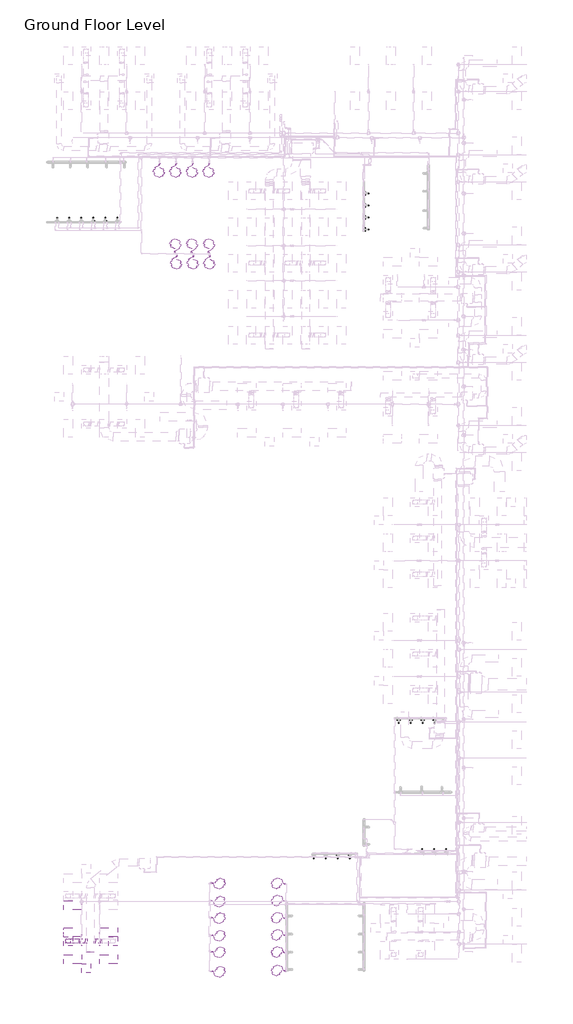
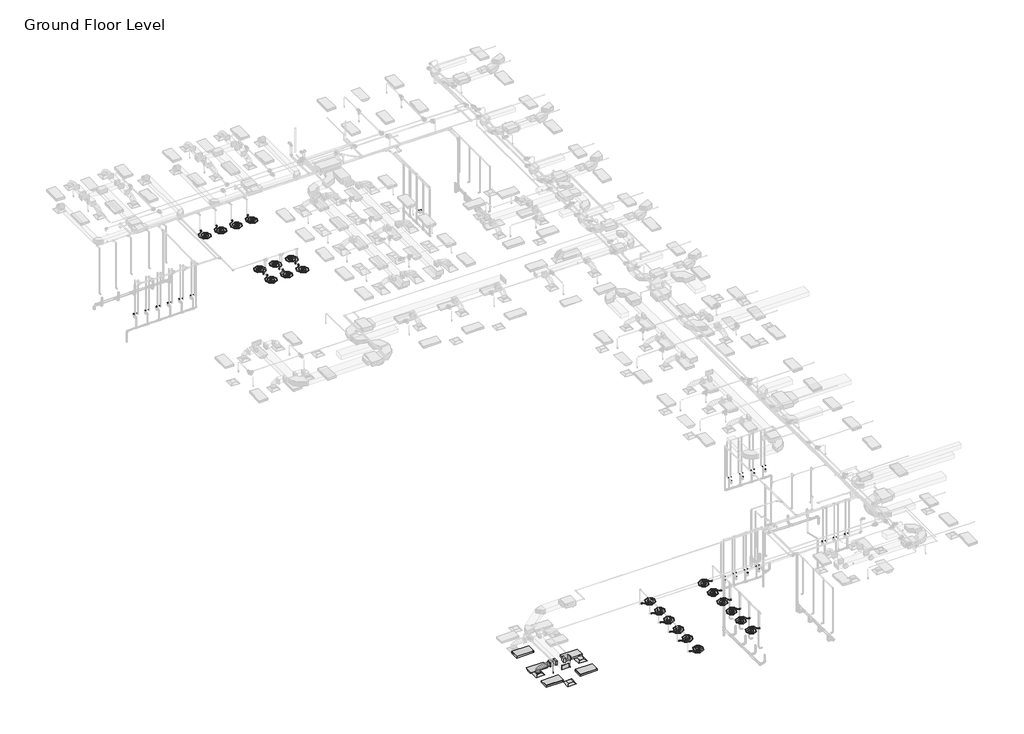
# One storey, part 1 of 72: 43 flow terminals, 6 duct fittings, 5 light fixtures, 3 air terminals, 3 duct segments, 2 fire suppression terminals, 2 pipe segments.
"""IFC4 building model written with IfcOpenShell, lengths in millimetres."""

from ifc_helpers import new_model, si_unit, point, frame, frame_2d, origin, place, context, project, spatial, polyline, circle_curve, ellipse_curve, trimmed, segment, composite_curve, outline, extrude, transform, mapped, element, save
from ifc_brep_helpers import plane_surface, cylinder_surface, advanced_brep
from components import m_return_diffuser_600_x_600_face_300_x_300_connection_ff221211, m_rectangular_endcap_standard_72d4d00d, m_rectangular_takeoff_standard_cb0ccb98, m_rectangular_takeoff_standard_2be5eba1, m_rectangular_to_round_transition_angle_45_degree_641efff0, m_sprinkler_dry_pendent_hosted_15_mm_dry_pendent_9bda8e11, lavatory_unit_m_type_1_c53317d3, shower_m_shower_m_c8aa42c7, m_emergency_recessed_lighting_fixture_600x1200_277_5b10b25d, m_troffer_light_parabolic_rectangular1_0600x1200mm_4_lamp_86473d4a

model = new_model("IFC4")

# Units and contexts
model_context = context("Model", 3, world=origin())
ifc_project = project(units=[si_unit("LENGTHUNIT", "METRE", prefix="MILLI")], contexts=[model_context])

# Site, building, storey
site = spatial("IfcSite", under=ifc_project)
building = spatial("IfcBuilding", under=site)
storey = spatial("IfcBuildingStorey", under=building, Name="Ground Floor Level", Elevation=900.0)

# Air terminals
placement = place(None, origin())
m_return_diffuser_600_x_600_face_300_x_300_connection_shape = m_return_diffuser_600_x_600_face_300_x_300_connection_ff221211(model_context)
element("IfcAirTerminal", 1, ObjectType="M_Return Diffuser : 600 x 600 Face 300 x 300 Connection", at=placement, inside=storey, context=model_context, shape_type="MappedRepresentation", body=[
    mapped(m_return_diffuser_600_x_600_face_300_x_300_connection_shape, transform((-19137.2327605, -40464.7846466, 3650.0), x_axis=(1.0, 0.0, 0.0), y_axis=(0.0, 1.0, 0.0), z_axis=(0.0, 0.0, 1.0))),
])
element("IfcAirTerminal", 2, ObjectType="M_Supply Diffuser : 600 x 600 Face 300 x 300 Connection", at=placement, inside=storey, context=model_context, shape_type="MappedRepresentation", body=[
    mapped(m_return_diffuser_600_x_600_face_300_x_300_connection_shape, transform((-20337.2327605, -38664.7846466, 3650.0), x_axis=(1.0, 0.0, 0.0), y_axis=(0.0, 1.0, 0.0), z_axis=(0.0, 0.0, 1.0))),
])
element("IfcAirTerminal", 3, ObjectType="M_Supply Diffuser : 600 x 600 Face 300 x 300 Connection", at=placement, inside=storey, context=model_context, shape_type="MappedRepresentation", body=[
    mapped(m_return_diffuser_600_x_600_face_300_x_300_connection_shape, transform((-17337.2327605, -38674.7846466, 3650.0), x_axis=(1.0, 0.0, 0.0), y_axis=(0.0, 1.0, 0.0), z_axis=(0.0, 0.0, 1.0))),
])

# Duct fittings
m_rectangular_endcap_standard_shape = m_rectangular_endcap_standard_72d4d00d(model_context)
element("IfcDuctFitting", 4, ObjectType="M_Rectangular Endcap : Standard", at=placement, inside=storey, context=model_context, shape_type="MappedRepresentation", body=[
    mapped(m_rectangular_endcap_standard_shape, transform((-18834.0450532, -39368.1580197, 4100.0), x_axis=(0.0, -1.0, 0.0), y_axis=(1.0, 0.0, 0.0), z_axis=(0.0, 0.0, 1.0))),
])
m_rectangular_takeoff_standard_shape = m_rectangular_takeoff_standard_cb0ccb98(model_context)
element("IfcDuctFitting", 5, ObjectType="M_Rectangular Takeoff : Standard", at=placement, inside=storey, context=model_context, shape_type="MappedRepresentation", body=[
    mapped(m_rectangular_takeoff_standard_shape, transform((-18584.0450532, -38664.7846466, 4100.0), x_axis=(1.0, 0.0, 0.0), y_axis=(0.0, -1.0, 0.0), z_axis=(0.0, 0.0, -1.0))),
])
m_rectangular_takeoff_standard_2_shape = m_rectangular_takeoff_standard_2be5eba1(model_context)
element("IfcDuctFitting", 6, ObjectType="M_Rectangular Takeoff : Standard", at=placement, inside=storey, context=model_context, shape_type="MappedRepresentation", body=[
    mapped(m_rectangular_takeoff_standard_2_shape, transform((-19084.0450532, -38664.7846466, 4100.0), x_axis=(-1.0, 0.0, 0.0), y_axis=(0.0, 1.0, 0.0), z_axis=(0.0, 0.0, -1.0))),
])
m_rectangular_to_round_transition_angle_45_degree_shape = m_rectangular_to_round_transition_angle_45_degree_641efff0(model_context)
element("IfcDuctFitting", 7, ObjectType="M_Rectangular to Round Transition - Angle : 45 Degree", at=placement, inside=storey, context=model_context, shape_type="MappedRepresentation", body=[
    mapped(m_rectangular_to_round_transition_angle_45_degree_shape, transform((-18164.5686918, -38664.7846466, 4100.0), x_axis=(1.0, 0.0, 0.0), y_axis=(0.0, 1.0, 0.0), z_axis=(0.0, 0.0, 1.0))),
])
element("IfcDuctFitting", 8, ObjectType="M_Rectangular to Round Transition - Angle : 45 Degree", at=placement, inside=storey, context=model_context, shape_type="MappedRepresentation", body=[
    mapped(m_rectangular_to_round_transition_angle_45_degree_shape, transform((-20337.2327605, -38664.7846466, 3751.6), x_axis=(0.0, 0.0, 1.0), y_axis=(-1.0, 0.0, 0.0), z_axis=(0.0, -1.0, 0.0))),
])
element("IfcDuctFitting", 9, ObjectType="M_Rectangular to Round Transition - Angle : 45 Degree", at=placement, inside=storey, context=model_context, shape_type="MappedRepresentation", body=[
    mapped(m_rectangular_to_round_transition_angle_45_degree_shape, transform((-19509.8968292, -38664.7846466, 4100.0), x_axis=(-1.0, 0.0, 0.0), y_axis=(0.0, -1.0, 0.0), z_axis=(0.0, 0.0, 1.0))),
])

# Duct segments
element("IfcDuctSegment", 10, ObjectType="Flex - Round", at=placement, inside=storey, context=model_context, shape_type="AdvancedBrep", body=[
    advanced_brep(
    [(-20187.2327605, -38664.7846466, 3826.6), (-20337.2327605, -38814.7846466, 3826.6), (-20487.2327605, -38664.7846466, 3826.6), (-20337.2327605, -38514.7846466, 3826.6), (-20187.2327605, -38664.7846466, 3832.2944892), (-20337.2327605, -38814.7846466, 3857.9377114), (-20487.2327605, -38664.7846466, 3883.5809337), (-20337.2327605, -38514.7846466, 3857.9377114), (-20186.478849, -38664.7846466, 3834.435049), (-20320.216828, -38814.7846466, 3906.2505728), (-20453.9548069, -38664.7846466, 3978.0660967), (-20320.216828, -38514.7846466, 3906.2505728), (-20168.8270484, -38664.7846466, 3857.8020236), (-20273.0329476, -38814.7846466, 3968.7113131), (-20377.2388469, -38664.7846466, 4079.6206026), (-20273.0329476, -38514.7846466, 3968.7113131), (-20132.5429398, -38664.7846466, 3881.8163788), (-20201.4769955, -38814.7846466, 4016.0700639), (-20270.4110511, -38664.7846466, 4150.3237489), (-20201.4769955, -38514.7846466, 4016.0700639), (-20067.7840843, -38664.7846466, 3906.4925606), (-20111.3448475, -38814.7846466, 4050.4146682), (-20154.9056106, -38664.7846466, 4194.3367758), (-20111.3448475, -38514.7846466, 4050.4146682), (-19981.8714556, -38664.7846466, 3926.0424542), (-20008.4323796, -38814.7846466, 4073.8329691), (-20034.9933036, -38664.7846466, 4221.6234841), (-20008.4323796, -38514.7846466, 4073.8329691), (-19883.3845655, -38664.7846466, 3939.1085462), (-19898.5354679, -38814.7846466, 4088.4128097), (-19913.6863702, -38664.7846466, 4237.7170733), (-19898.5354679, -38514.7846466, 4088.4128097), (-19779.9446601, -38664.7846466, 3946.398915), (-19787.4499883, -38814.7846466, 4096.242033), (-19794.9553164, -38664.7846466, 4246.085151), (-19787.4499883, -38514.7846466, 4096.242033), (-19678.2803236, -38664.7846466, 3949.4222102), (-19680.9718167, -38814.7846466, 4099.4084821), (-19683.6633098, -38664.7846466, 4249.394754), (-19680.9718167, -38514.7846466, 4099.4084821), (-19583.9733214, -38664.7846466, 3950.0028429), (-19584.8968292, -38814.7846466, 4100.0), (-19585.8203371, -38664.7846466, 4249.9971571), (-19584.8968292, -38514.7846466, 4100.0)],
    [
        (0, 1, circle_curve(frame((-20337.2327605, -38664.7846466, 3826.6), z_axis=(0.0, 0.0, -1.0), x_axis=(1.0, 0.0, 0.0)), 150.0)),
        (1, 2, circle_curve(frame((-20337.2327605, -38664.7846466, 3826.6), z_axis=(0.0, 0.0, -1.0), x_axis=(1.0, 0.0, 0.0)), 150.0)),
        (2, 3, circle_curve(frame((-20337.2327605, -38664.7846466, 3826.6), z_axis=(0.0, 0.0, -1.0), x_axis=(1.0, 0.0, 0.0)), 150.0)),
        (3, 0, circle_curve(frame((-20337.2327605, -38664.7846466, 3826.6), z_axis=(0.0, 0.0, -1.0), x_axis=(1.0, 0.0, 0.0)), 150.0)),
        (0, 4),
        (4, 5, ellipse_curve(frame((-20337.2327605, -38664.7846466, 3857.9377114), z_axis=(-0.16851014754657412, 0.0, -0.9856999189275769), x_axis=(0.9856999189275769, 0.0, -0.16851014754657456)), 152.176131, 150.0)),
        (5, 1),
        (5, 6, ellipse_curve(frame((-20337.2327605, -38664.7846466, 3857.9377114), z_axis=(-0.16851014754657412, 0.0, -0.9856999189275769), x_axis=(0.9856999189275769, 0.0, -0.16851014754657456)), 152.176131, 150.0)),
        (6, 2),
        (6, 7, ellipse_curve(frame((-20337.2327605, -38664.7846466, 3857.9377114), z_axis=(-0.16851014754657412, 0.0, -0.9856999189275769), x_axis=(0.9856999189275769, 0.0, -0.16851014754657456)), 152.176131, 150.0)),
        (7, 3),
        (7, 4, ellipse_curve(frame((-20337.2327605, -38664.7846466, 3857.9377114), z_axis=(-0.16851014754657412, 0.0, -0.9856999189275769), x_axis=(0.9856999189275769, 0.0, -0.16851014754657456)), 152.176131, 150.0)),
        (4, 8),
        (8, 9, ellipse_curve(frame((-20320.216828, -38664.7846466, 3906.2505728), z_axis=(-0.47309225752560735, 0.0, -0.881012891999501), x_axis=(0.8810128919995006, 0.0, -0.4730922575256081)), 151.8002519, 150.0)),
        (9, 5),
        (9, 10, ellipse_curve(frame((-20320.216828, -38664.7846466, 3906.2505728), z_axis=(-0.47309225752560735, 0.0, -0.881012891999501), x_axis=(0.8810128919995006, 0.0, -0.4730922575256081)), 151.8002519, 150.0)),
        (10, 6),
        (10, 11, ellipse_curve(frame((-20320.216828, -38664.7846466, 3906.2505728), z_axis=(-0.47309225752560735, 0.0, -0.881012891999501), x_axis=(0.8810128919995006, 0.0, -0.4730922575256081)), 151.8002519, 150.0)),
        (11, 7),
        (11, 8, ellipse_curve(frame((-20320.216828, -38664.7846466, 3906.2505728), z_axis=(-0.47309225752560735, 0.0, -0.881012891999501), x_axis=(0.8810128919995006, 0.0, -0.4730922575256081)), 151.8002519, 150.0)),
        (8, 12),
        (12, 13, ellipse_curve(frame((-20273.0329476, -38664.7846466, 3968.7113131), z_axis=(-0.728787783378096, 0.0, -0.6847396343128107), x_axis=(0.6847396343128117, 0.0, -0.7287877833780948)), 152.1832446, 150.0)),
        (13, 9),
        (13, 14, ellipse_curve(frame((-20273.0329476, -38664.7846466, 3968.7113131), z_axis=(-0.728787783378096, 0.0, -0.6847396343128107), x_axis=(0.6847396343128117, 0.0, -0.7287877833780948)), 152.1832446, 150.0)),
        (14, 10),
        (14, 15, ellipse_curve(frame((-20273.0329476, -38664.7846466, 3968.7113131), z_axis=(-0.728787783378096, 0.0, -0.6847396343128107), x_axis=(0.6847396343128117, 0.0, -0.7287877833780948)), 152.1832446, 150.0)),
        (15, 11),
        (15, 12, ellipse_curve(frame((-20273.0329476, -38664.7846466, 3968.7113131), z_axis=(-0.728787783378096, 0.0, -0.6847396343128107), x_axis=(0.6847396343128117, 0.0, -0.7287877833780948)), 152.1832446, 150.0)),
        (12, 16),
        (16, 17, ellipse_curve(frame((-20201.4769955, -38664.7846466, 4016.0700639), z_axis=(-0.8895859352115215, 0.0, -0.4567678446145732), x_axis=(0.45676784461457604, 0.0, -0.88958593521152)), 150.91705, 150.0)),
        (17, 13),
        (17, 18, ellipse_curve(frame((-20201.4769955, -38664.7846466, 4016.0700639), z_axis=(-0.8895859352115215, 0.0, -0.4567678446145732), x_axis=(0.45676784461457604, 0.0, -0.88958593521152)), 150.91705, 150.0)),
        (18, 14),
        (18, 19, ellipse_curve(frame((-20201.4769955, -38664.7846466, 4016.0700639), z_axis=(-0.8895859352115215, 0.0, -0.4567678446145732), x_axis=(0.45676784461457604, 0.0, -0.88958593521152)), 150.91705, 150.0)),
        (19, 15),
        (19, 16, ellipse_curve(frame((-20201.4769955, -38664.7846466, 4016.0700639), z_axis=(-0.8895859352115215, 0.0, -0.4567678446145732), x_axis=(0.45676784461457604, 0.0, -0.88958593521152)), 150.91705, 150.0)),
        (16, 20),
        (20, 21, ellipse_curve(frame((-20111.3448475, -38664.7846466, 4050.4146682), z_axis=(-0.9571203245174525, 0.0, -0.2896906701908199), x_axis=(0.28969067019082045, 0.0, -0.9571203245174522)), 150.369921, 150.0)),
        (21, 17),
        (21, 22, ellipse_curve(frame((-20111.3448475, -38664.7846466, 4050.4146682), z_axis=(-0.9571203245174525, 0.0, -0.2896906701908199), x_axis=(0.28969067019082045, 0.0, -0.9571203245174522)), 150.369921, 150.0)),
        (22, 18),
        (22, 23, ellipse_curve(frame((-20111.3448475, -38664.7846466, 4050.4146682), z_axis=(-0.9571203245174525, 0.0, -0.2896906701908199), x_axis=(0.28969067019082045, 0.0, -0.9571203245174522)), 150.369921, 150.0)),
        (23, 19),
        (23, 20, ellipse_curve(frame((-20111.3448475, -38664.7846466, 4050.4146682), z_axis=(-0.9571203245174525, 0.0, -0.2896906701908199), x_axis=(0.28969067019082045, 0.0, -0.9571203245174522)), 150.369921, 150.0)),
        (20, 24),
        (24, 25, ellipse_curve(frame((-20008.4323796, -38664.7846466, 4073.8329691), z_axis=(-0.9842313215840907, 0.0, -0.17688613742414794), x_axis=(0.17688613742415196, 0.0, -0.9842313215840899)), 150.1583131, 150.0)),
        (25, 21),
        (25, 26, ellipse_curve(frame((-20008.4323796, -38664.7846466, 4073.8329691), z_axis=(-0.9842313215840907, 0.0, -0.17688613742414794), x_axis=(0.17688613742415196, 0.0, -0.9842313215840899)), 150.1583131, 150.0)),
        (26, 22),
        (26, 27, ellipse_curve(frame((-20008.4323796, -38664.7846466, 4073.8329691), z_axis=(-0.9842313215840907, 0.0, -0.17688613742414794), x_axis=(0.17688613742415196, 0.0, -0.9842313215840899)), 150.1583131, 150.0)),
        (27, 23),
        (27, 24, ellipse_curve(frame((-20008.4323796, -38664.7846466, 4073.8329691), z_axis=(-0.9842313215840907, 0.0, -0.17688613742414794), x_axis=(0.17688613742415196, 0.0, -0.9842313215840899)), 150.1583131, 150.0)),
        (24, 28),
        (28, 29, ellipse_curve(frame((-19898.5354679, -38664.7846466, 4088.4128097), z_axis=(-0.9948906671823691, 0.0, -0.1009582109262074), x_axis=(0.10095821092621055, 0.0, -0.9948906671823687)), 150.0710264, 150.0)),
        (29, 25),
        (29, 30, ellipse_curve(frame((-19898.5354679, -38664.7846466, 4088.4128097), z_axis=(-0.9948906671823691, 0.0, -0.1009582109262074), x_axis=(0.10095821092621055, 0.0, -0.9948906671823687)), 150.0710264, 150.0)),
        (30, 26),
        (30, 31, ellipse_curve(frame((-19898.5354679, -38664.7846466, 4088.4128097), z_axis=(-0.9948906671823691, 0.0, -0.1009582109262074), x_axis=(0.10095821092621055, 0.0, -0.9948906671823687)), 150.0710264, 150.0)),
        (31, 27),
        (31, 28, ellipse_curve(frame((-19898.5354679, -38664.7846466, 4088.4128097), z_axis=(-0.9948906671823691, 0.0, -0.1009582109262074), x_axis=(0.10095821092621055, 0.0, -0.9948906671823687)), 150.0710264, 150.0)),
        (28, 32),
        (32, 33, ellipse_curve(frame((-19787.4499883, -38664.7846466, 4096.242033), z_axis=(-0.9987479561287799, 0.0, -0.05002519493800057), x_axis=(0.05002519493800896, 0.0, -0.9987479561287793)), 150.0309634, 150.0)),
        (33, 29),
        (33, 34, ellipse_curve(frame((-19787.4499883, -38664.7846466, 4096.242033), z_axis=(-0.9987479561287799, 0.0, -0.05002519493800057), x_axis=(0.05002519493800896, 0.0, -0.9987479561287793)), 150.0309634, 150.0)),
        (34, 30),
        (34, 35, ellipse_curve(frame((-19787.4499883, -38664.7846466, 4096.242033), z_axis=(-0.9987479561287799, 0.0, -0.05002519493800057), x_axis=(0.05002519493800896, 0.0, -0.9987479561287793)), 150.0309634, 150.0)),
        (35, 31),
        (35, 32, ellipse_curve(frame((-19787.4499883, -38664.7846466, 4096.242033), z_axis=(-0.9987479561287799, 0.0, -0.05002519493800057), x_axis=(0.05002519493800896, 0.0, -0.9987479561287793)), 150.0309634, 150.0)),
        (32, 36),
        (36, 37, ellipse_curve(frame((-19680.9718167, -38664.7846466, 4099.4084821), z_axis=(-0.9998390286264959, 0.0, -0.017942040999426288), x_axis=(0.01794204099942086, 0.0, -0.999839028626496)), 150.0104193, 150.0)),
        (37, 33),
        (37, 38, ellipse_curve(frame((-19680.9718167, -38664.7846466, 4099.4084821), z_axis=(-0.9998390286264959, 0.0, -0.017942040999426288), x_axis=(0.01794204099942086, 0.0, -0.999839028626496)), 150.0104193, 150.0)),
        (38, 34),
        (38, 39, ellipse_curve(frame((-19680.9718167, -38664.7846466, 4099.4084821), z_axis=(-0.9998390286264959, 0.0, -0.017942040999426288), x_axis=(0.01794204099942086, 0.0, -0.999839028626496)), 150.0104193, 150.0)),
        (39, 35),
        (39, 36, ellipse_curve(frame((-19680.9718167, -38664.7846466, 4099.4084821), z_axis=(-0.9998390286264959, 0.0, -0.017942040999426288), x_axis=(0.01794204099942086, 0.0, -0.999839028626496)), 150.0104193, 150.0)),
        (36, 40),
        (40, 41, circle_curve(frame((-19584.8968292, -38664.7846466, 4100.0), z_axis=(-0.9999810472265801, 0.0, -0.006156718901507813), x_axis=(0.006156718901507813, 0.0, -0.9999810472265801)), 150.0)),
        (41, 37),
        (41, 42, circle_curve(frame((-19584.8968292, -38664.7846466, 4100.0), z_axis=(-0.9999810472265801, 0.0, -0.006156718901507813), x_axis=(0.006156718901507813, 0.0, -0.9999810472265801)), 150.0)),
        (42, 38),
        (42, 43, circle_curve(frame((-19584.8968292, -38664.7846466, 4100.0), z_axis=(-0.9999810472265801, 0.0, -0.006156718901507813), x_axis=(0.006156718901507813, 0.0, -0.9999810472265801)), 150.0)),
        (43, 39),
        (43, 40, circle_curve(frame((-19584.8968292, -38664.7846466, 4100.0), z_axis=(-0.9999810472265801, 0.0, -0.006156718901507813), x_axis=(0.006156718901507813, 0.0, -0.9999810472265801)), 150.0)),
    ],
    [
        plane_surface(frame((-20337.2327605, -38814.7846466, 3826.6), z_axis=(0.0, 0.0, -1.0), x_axis=(1.0, 0.0, 0.0))),
        cylinder_surface(frame((-20337.2327605, -38664.7846466, 3826.6), z_axis=(0.0, 0.0, -1.0), x_axis=(1.0, 0.0, 0.0)), 150.0),
        cylinder_surface(frame((-20337.2327605, -38664.7846466, 3857.9377114), z_axis=(-0.3322008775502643, 0.0, -0.9432086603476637), x_axis=(0.9432086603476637, 0.0, -0.3322008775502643)), 150.0),
        cylinder_surface(frame((-20320.216828, -38664.7846466, 3906.2505728), z_axis=(-0.602762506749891, 0.0, -0.7979206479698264), x_axis=(0.7979206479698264, 0.0, -0.602762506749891)), 150.0),
        cylinder_surface(frame((-20273.0329476, -38664.7846466, 3968.7113131), z_axis=(-0.8339024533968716, 0.0, -0.5519118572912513), x_axis=(0.5519118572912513, 0.0, -0.8339024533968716)), 150.0),
        cylinder_surface(frame((-20201.4769955, -38664.7846466, 4016.0700639), z_axis=(-0.9344582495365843, 0.0, -0.35607271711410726), x_axis=(0.35607271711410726, 0.0, -0.9344582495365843)), 150.0),
        cylinder_surface(frame((-20111.3448475, -38664.7846466, 4050.4146682), z_axis=(-0.9750732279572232, 0.0, -0.2218833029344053), x_axis=(0.2218833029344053, 0.0, -0.9750732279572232)), 150.0),
        cylinder_surface(frame((-20008.4323796, -38664.7846466, 4073.8329691), z_axis=(-0.9913140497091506, 0.0, -0.13151598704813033), x_axis=(0.13151598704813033, 0.0, -0.9913140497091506)), 150.0),
        cylinder_surface(frame((-19898.5354679, -38664.7846466, 4088.4128097), z_axis=(-0.9975255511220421, 0.0, -0.07030487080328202), x_axis=(0.07030487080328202, 0.0, -0.9975255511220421)), 150.0),
        cylinder_surface(frame((-19787.4499883, -38664.7846466, 4096.242033), z_axis=(-0.9995581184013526, 0.0, -0.02972487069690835), x_axis=(0.02972487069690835, 0.0, -0.9995581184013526)), 150.0),
        cylinder_surface(frame((-19680.9718167, -38664.7846466, 4099.4084821), z_axis=(-0.9999810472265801, 0.0, -0.006156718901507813), x_axis=(0.006156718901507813, 0.0, -0.9999810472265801)), 150.0),
        plane_surface(frame((-19584.8968292, -38814.7846466, 4100.0), z_axis=(0.9999810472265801, 0.0, 0.00615671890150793), x_axis=(0.00615671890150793, 0.0, -0.9999810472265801))),
    ],
    [
        (0, [[1, 2, 3, 4]]),
        (1, [[-1, 5, 6, 7]]),
        (1, [[-2, -7, 8, 9]]),
        (1, [[-3, -9, 10, 11]]),
        (1, [[-4, -11, 12, -5]]),
        (2, [[-6, 13, 14, 15]]),
        (2, [[-8, -15, 16, 17]]),
        (2, [[-10, -17, 18, 19]]),
        (2, [[-12, -19, 20, -13]]),
        (3, [[-14, 21, 22, 23]]),
        (3, [[-16, -23, 24, 25]]),
        (3, [[-18, -25, 26, 27]]),
        (3, [[-20, -27, 28, -21]]),
        (4, [[-22, 29, 30, 31]]),
        (4, [[-24, -31, 32, 33]]),
        (4, [[-26, -33, 34, 35]]),
        (4, [[-28, -35, 36, -29]]),
        (5, [[-30, 37, 38, 39]]),
        (5, [[-32, -39, 40, 41]]),
        (5, [[-34, -41, 42, 43]]),
        (5, [[-36, -43, 44, -37]]),
        (6, [[-38, 45, 46, 47]]),
        (6, [[-40, -47, 48, 49]]),
        (6, [[-42, -49, 50, 51]]),
        (6, [[-44, -51, 52, -45]]),
        (7, [[-46, 53, 54, 55]]),
        (7, [[-48, -55, 56, 57]]),
        (7, [[-50, -57, 58, 59]]),
        (7, [[-52, -59, 60, -53]]),
        (8, [[-54, 61, 62, 63]]),
        (8, [[-56, -63, 64, 65]]),
        (8, [[-58, -65, 66, 67]]),
        (8, [[-60, -67, 68, -61]]),
        (9, [[-62, 69, 70, 71]]),
        (9, [[-64, -71, 72, 73]]),
        (9, [[-66, -73, 74, 75]]),
        (9, [[-68, -75, 76, -69]]),
        (10, [[-70, 77, 78, 79]]),
        (10, [[-72, -79, 80, 81]]),
        (10, [[-74, -81, 82, 83]]),
        (10, [[-76, -83, 84, -77]]),
        (11, [[-84, -82, -80, -78]]),
    ],
),
])
element("IfcDuctSegment", 11, ObjectType="Radius Elbows / Taps", at=placement, inside=storey, context=model_context, shape_type="SweptSolid", body=[
    extrude(outline(polyline([(-19185.6450532, -38514.7846466), (-19185.6450532, -38814.7846466), (-19509.8968292, -38814.7846466), (-19509.8968292, -38514.7846466), (-19185.6450532, -38514.7846466)])), frame((0.0, 0.0, 3950.0), z_axis=(0.0, 0.0, 1.0), x_axis=(1.0, 0.0, 0.0)), (0.0, 0.0, 1.0), 300.0),
])
element("IfcDuctSegment", 12, ObjectType="Radius Elbows / Taps", at=placement, inside=storey, context=model_context, shape_type="SweptSolid", body=[
    extrude(outline(polyline([(-18482.4450532, -38814.7846466), (-18482.4450532, -38514.7846466), (-18164.5686918, -38514.7846466), (-18164.5686918, -38814.7846466), (-18482.4450532, -38814.7846466)])), frame((0.0, 0.0, 3950.0), z_axis=(0.0, 0.0, 1.0), x_axis=(1.0, 0.0, 0.0)), (0.0, 0.0, 1.0), 300.0),
])

# Fire suppression terminals
m_sprinkler_dry_pendent_hosted_15_mm_dry_pendent_shape = m_sprinkler_dry_pendent_hosted_15_mm_dry_pendent_9bda8e11(model_context)
element("IfcFireSuppressionTerminal", 13, ObjectType="M_Sprinkler - Dry - Pendent - Hosted : 15 mm Dry Pendent", at=placement, inside=storey, context=model_context, shape_type="MappedRepresentation", body=[
    mapped(m_sprinkler_dry_pendent_hosted_15_mm_dry_pendent_shape, transform((-18237.2327605, -38964.7846466, 3650.0), x_axis=(1.0, 0.0, 0.0), y_axis=(0.0, -1.0, 0.0), z_axis=(0.0, 0.0, -1.0))),
])
element("IfcFireSuppressionTerminal", 14, ObjectType="M_Sprinkler - Dry - Pendent - Hosted : 15 mm Dry Pendent", at=placement, inside=storey, context=model_context, shape_type="MappedRepresentation", body=[
    mapped(m_sprinkler_dry_pendent_hosted_15_mm_dry_pendent_shape, transform((-19437.2327605, -38964.7846466, 3650.0), x_axis=(1.0, 0.0, 0.0), y_axis=(0.0, -1.0, 0.0), z_axis=(0.0, 0.0, -1.0))),
])

# Flow terminals
lavatory_unit_m_type_1_shape = lavatory_unit_m_type_1_c53317d3(model_context)
element("IfcFlowTerminal", 15, ObjectType="Lavatory Unit-M : Type 1", at=placement, inside=storey, context=model_context, shape_type="MappedRepresentation", body=[
    mapped(lavatory_unit_m_type_1_shape, transform((-21186.2502, 9255.2153534, 920.0), x_axis=(1.0, 0.0, 0.0), y_axis=(0.0, 1.0, 0.0), z_axis=(0.0, 0.0, 1.0))),
])
element("IfcFlowTerminal", 16, ObjectType="Lavatory Unit-M : Type 1", at=placement, inside=storey, context=model_context, shape_type="MappedRepresentation", body=[
    mapped(lavatory_unit_m_type_1_shape, transform((-20386.2502, 9255.2153534, 920.0), x_axis=(1.0, 0.0, 0.0), y_axis=(0.0, 1.0, 0.0), z_axis=(0.0, 0.0, 1.0))),
])
element("IfcFlowTerminal", 17, ObjectType="Lavatory Unit-M : Type 1", at=placement, inside=storey, context=model_context, shape_type="MappedRepresentation", body=[
    mapped(lavatory_unit_m_type_1_shape, transform((-537.2327605, 8796.1979139, 920.0), x_axis=(0.0, -1.0, 0.0), y_axis=(1.0, 0.0, 0.0), z_axis=(0.0, 0.0, 1.0))),
])
element("IfcFlowTerminal", 18, ObjectType="Lavatory Unit-M : Type 1", at=placement, inside=storey, context=model_context, shape_type="MappedRepresentation", body=[
    mapped(lavatory_unit_m_type_1_shape, transform((-19586.2502, 9255.2153534, 920.0), x_axis=(1.0, 0.0, 0.0), y_axis=(0.0, 1.0, 0.0), z_axis=(0.0, 0.0, 1.0))),
])
element("IfcFlowTerminal", 19, ObjectType="Lavatory Unit-M : Type 1", at=placement, inside=storey, context=model_context, shape_type="MappedRepresentation", body=[
    mapped(lavatory_unit_m_type_1_shape, transform((-18786.2502, 9255.2153534, 920.0), x_axis=(1.0, 0.0, 0.0), y_axis=(0.0, 1.0, 0.0), z_axis=(0.0, 0.0, 1.0))),
])
element("IfcFlowTerminal", 20, ObjectType="Lavatory Unit-M : Type 1", at=placement, inside=storey, context=model_context, shape_type="MappedRepresentation", body=[
    mapped(lavatory_unit_m_type_1_shape, transform((-17986.2502, 9255.2153534, 920.0), x_axis=(1.0, 0.0, 0.0), y_axis=(0.0, 1.0, 0.0), z_axis=(0.0, 0.0, 1.0))),
])
element("IfcFlowTerminal", 21, ObjectType="Lavatory Unit-M : Type 1", at=placement, inside=storey, context=model_context, shape_type="MappedRepresentation", body=[
    mapped(lavatory_unit_m_type_1_shape, transform((-17186.2502, 9255.2153534, 920.0), x_axis=(1.0, 0.0, 0.0), y_axis=(0.0, 1.0, 0.0), z_axis=(0.0, 0.0, 1.0))),
])
element("IfcFlowTerminal", 22, ObjectType="Lavatory Unit-M : Type 1", at=placement, inside=storey, context=model_context, shape_type="MappedRepresentation", body=[
    mapped(lavatory_unit_m_type_1_shape, transform((-537.2327605, 9596.1979139, 920.0), x_axis=(0.0, -1.0, 0.0), y_axis=(1.0, 0.0, 0.0), z_axis=(0.0, 0.0, 1.0))),
])
element("IfcFlowTerminal", 23, ObjectType="Lavatory Unit-M : Type 1", at=placement, inside=storey, context=model_context, shape_type="MappedRepresentation", body=[
    mapped(lavatory_unit_m_type_1_shape, transform((-537.2327605, 10396.1979139, 920.0), x_axis=(0.0, -1.0, 0.0), y_axis=(1.0, 0.0, 0.0), z_axis=(0.0, 0.0, 1.0))),
])
element("IfcFlowTerminal", 24, ObjectType="Lavatory Unit-M : Type 1", at=placement, inside=storey, context=model_context, shape_type="MappedRepresentation", body=[
    mapped(lavatory_unit_m_type_1_shape, transform((-537.2327605, 11196.1979139, 920.0), x_axis=(0.0, -1.0, 0.0), y_axis=(1.0, 0.0, 0.0), z_axis=(0.0, 0.0, 1.0))),
])
element("IfcFlowTerminal", 25, ObjectType="Lavatory Unit-M : Type 1", at=placement, inside=storey, context=model_context, shape_type="MappedRepresentation", body=[
    mapped(lavatory_unit_m_type_1_shape, transform((1803.7498, -23964.7846466, 920.0), x_axis=(-1.0, 0.0, 0.0), y_axis=(0.0, -1.0, 0.0), z_axis=(0.0, 0.0, 1.0))),
])
element("IfcFlowTerminal", 26, ObjectType="Lavatory Unit-M : Type 1", at=placement, inside=storey, context=model_context, shape_type="MappedRepresentation", body=[
    mapped(lavatory_unit_m_type_1_shape, transform((2603.7498, -23964.7846466, 920.0), x_axis=(-1.0, 0.0, 0.0), y_axis=(0.0, -1.0, 0.0), z_axis=(0.0, 0.0, 1.0))),
])
element("IfcFlowTerminal", 27, ObjectType="Lavatory Unit-M : Type 1", at=placement, inside=storey, context=model_context, shape_type="MappedRepresentation", body=[
    mapped(lavatory_unit_m_type_1_shape, transform((3403.7498, -23964.7846466, 920.0), x_axis=(-1.0, 0.0, 0.0), y_axis=(0.0, -1.0, 0.0), z_axis=(0.0, 0.0, 1.0))),
])
element("IfcFlowTerminal", 28, ObjectType="Lavatory Unit-M : Type 1", at=placement, inside=storey, context=model_context, shape_type="MappedRepresentation", body=[
    mapped(lavatory_unit_m_type_1_shape, transform((4203.7498, -23964.7846466, 920.0), x_axis=(-1.0, 0.0, 0.0), y_axis=(0.0, -1.0, 0.0), z_axis=(0.0, 0.0, 1.0))),
])
element("IfcFlowTerminal", 29, ObjectType="Lavatory Unit-M : Type 1", at=placement, inside=storey, context=model_context, shape_type="MappedRepresentation", body=[
    mapped(lavatory_unit_m_type_1_shape, transform((4701.7846789, -32744.7846466, 920.0), x_axis=(1.0, 0.0, 0.0), y_axis=(0.0, 1.0, 0.0), z_axis=(0.0, 0.0, 1.0))),
])
element("IfcFlowTerminal", 30, ObjectType="Lavatory Unit-M : Type 1", at=placement, inside=storey, context=model_context, shape_type="MappedRepresentation", body=[
    mapped(lavatory_unit_m_type_1_shape, transform((3901.7846789, -32744.7846466, 920.0), x_axis=(1.0, 0.0, 0.0), y_axis=(0.0, 1.0, 0.0), z_axis=(0.0, 0.0, 1.0))),
])
element("IfcFlowTerminal", 31, ObjectType="Lavatory Unit-M : Type 1", at=placement, inside=storey, context=model_context, shape_type="MappedRepresentation", body=[
    mapped(lavatory_unit_m_type_1_shape, transform((3101.7846789, -32744.7846466, 920.0), x_axis=(1.0, 0.0, 0.0), y_axis=(0.0, 1.0, 0.0), z_axis=(0.0, 0.0, 1.0))),
])
element("IfcFlowTerminal", 32, ObjectType="Lavatory Unit-M : Type 1", at=placement, inside=storey, context=model_context, shape_type="MappedRepresentation", body=[
    mapped(lavatory_unit_m_type_1_shape, transform((-1448.215321, -32964.7846466, 920.0), x_axis=(-1.0, 0.0, 0.0), y_axis=(0.0, -1.0, 0.0), z_axis=(0.0, 0.0, 1.0))),
])
element("IfcFlowTerminal", 33, ObjectType="Lavatory Unit-M : Type 1", at=placement, inside=storey, context=model_context, shape_type="MappedRepresentation", body=[
    mapped(lavatory_unit_m_type_1_shape, transform((-2248.215321, -32964.7846466, 920.0), x_axis=(-1.0, 0.0, 0.0), y_axis=(0.0, -1.0, 0.0), z_axis=(0.0, 0.0, 1.0))),
])
element("IfcFlowTerminal", 34, ObjectType="Lavatory Unit-M : Type 1", at=placement, inside=storey, context=model_context, shape_type="MappedRepresentation", body=[
    mapped(lavatory_unit_m_type_1_shape, transform((-3048.215321, -32964.7846466, 920.0), x_axis=(-1.0, 0.0, 0.0), y_axis=(0.0, -1.0, 0.0), z_axis=(0.0, 0.0, 1.0))),
])
element("IfcFlowTerminal", 35, ObjectType="Lavatory Unit-M : Type 1", at=placement, inside=storey, context=model_context, shape_type="MappedRepresentation", body=[
    mapped(lavatory_unit_m_type_1_shape, transform((-3848.215321, -32964.7846466, 920.0), x_axis=(-1.0, 0.0, 0.0), y_axis=(0.0, -1.0, 0.0), z_axis=(0.0, 0.0, 1.0))),
])
shower_m_shower_m_shape = shower_m_shower_m_c8aa42c7(model_context)
element("IfcFlowTerminal", 36, ObjectType="Shower-M : Shower-M", at=placement, inside=storey, context=model_context, shape_type="MappedRepresentation", body=[
    mapped(shower_m_shower_m_shape, transform((-10283.9007605, -34799.6019973, 3200.0), x_axis=(-1.0, 0.0, 0.0), y_axis=(0.0, -1.0, 0.0), z_axis=(0.0, 0.0, 1.0))),
])
element("IfcFlowTerminal", 37, ObjectType="Shower-M : Shower-M", at=placement, inside=storey, context=model_context, shape_type="MappedRepresentation", body=[
    mapped(shower_m_shower_m_shape, transform((-10283.9007605, -35999.6019973, 3200.0), x_axis=(-1.0, 0.0, 0.0), y_axis=(0.0, -1.0, 0.0), z_axis=(0.0, 0.0, 1.0))),
])
element("IfcFlowTerminal", 38, ObjectType="Shower-M : Shower-M", at=placement, inside=storey, context=model_context, shape_type="MappedRepresentation", body=[
    mapped(shower_m_shower_m_shape, transform((-10283.9007605, -37099.6019973, 3200.0), x_axis=(-1.0, 0.0, 0.0), y_axis=(0.0, -1.0, 0.0), z_axis=(0.0, 0.0, 1.0))),
])
element("IfcFlowTerminal", 39, ObjectType="Shower-M : Shower-M", at=placement, inside=storey, context=model_context, shape_type="MappedRepresentation", body=[
    mapped(shower_m_shower_m_shape, transform((-10283.9007605, -38269.7846466, 3200.0), x_axis=(-1.0, 0.0, 0.0), y_axis=(0.0, -1.0, 0.0), z_axis=(0.0, 0.0, 1.0))),
])
element("IfcFlowTerminal", 40, ObjectType="Shower-M : Shower-M", at=placement, inside=storey, context=model_context, shape_type="MappedRepresentation", body=[
    mapped(shower_m_shower_m_shape, transform((-10283.9007605, -39369.7846466, 3200.0), x_axis=(-1.0, 0.0, 0.0), y_axis=(0.0, -1.0, 0.0), z_axis=(0.0, 0.0, 1.0))),
])
element("IfcFlowTerminal", 41, ObjectType="Shower-M : Shower-M", at=placement, inside=storey, context=model_context, shape_type="MappedRepresentation", body=[
    mapped(shower_m_shower_m_shape, transform((-10283.9007605, -40669.7846466, 3200.0), x_axis=(-1.0, 0.0, 0.0), y_axis=(0.0, -1.0, 0.0), z_axis=(0.0, 0.0, 1.0))),
])
element("IfcFlowTerminal", 42, ObjectType="Shower-M : Shower-M", at=placement, inside=storey, context=model_context, shape_type="MappedRepresentation", body=[
    mapped(shower_m_shower_m_shape, transform((-6390.5687605, -34864.6926466, 3200.0), x_axis=(1.0, 0.0, 0.0), y_axis=(0.0, 1.0, 0.0), z_axis=(0.0, 0.0, 1.0))),
])
element("IfcFlowTerminal", 43, ObjectType="Shower-M : Shower-M", at=placement, inside=storey, context=model_context, shape_type="MappedRepresentation", body=[
    mapped(shower_m_shower_m_shape, transform((-6390.5687605, -36012.7835466, 3200.0), x_axis=(1.0, 0.0, 0.0), y_axis=(0.0, 1.0, 0.0), z_axis=(0.0, 0.0, 1.0))),
])
element("IfcFlowTerminal", 44, ObjectType="Shower-M : Shower-M", at=placement, inside=storey, context=model_context, shape_type="MappedRepresentation", body=[
    mapped(shower_m_shower_m_shape, transform((-6390.5687605, -37152.7833366, 3200.0), x_axis=(1.0, 0.0, 0.0), y_axis=(0.0, 1.0, 0.0), z_axis=(0.0, 0.0, 1.0))),
])
element("IfcFlowTerminal", 45, ObjectType="Shower-M : Shower-M", at=placement, inside=storey, context=model_context, shape_type="MappedRepresentation", body=[
    mapped(shower_m_shower_m_shape, transform((-6390.5687605, -38292.7833266, 3200.0), x_axis=(1.0, 0.0, 0.0), y_axis=(0.0, 1.0, 0.0), z_axis=(0.0, 0.0, 1.0))),
])
element("IfcFlowTerminal", 46, ObjectType="Shower-M : Shower-M", at=placement, inside=storey, context=model_context, shape_type="MappedRepresentation", body=[
    mapped(shower_m_shower_m_shape, transform((-6390.5687605, -39432.7929166, 3200.0), x_axis=(1.0, 0.0, 0.0), y_axis=(0.0, 1.0, 0.0), z_axis=(0.0, 0.0, 1.0))),
])
element("IfcFlowTerminal", 47, ObjectType="Shower-M : Shower-M", at=placement, inside=storey, context=model_context, shape_type="MappedRepresentation", body=[
    mapped(shower_m_shower_m_shape, transform((-6390.5687605, -40654.7846466, 3200.0), x_axis=(1.0, 0.0, 0.0), y_axis=(0.0, 1.0, 0.0), z_axis=(0.0, 0.0, 1.0))),
])
element("IfcFlowTerminal", 48, ObjectType="Shower-M : Shower-M", at=placement, inside=storey, context=model_context, shape_type="MappedRepresentation", body=[
    mapped(shower_m_shower_m_shape, transform((-14247.2327605, 12535.2153534, 3200.0), x_axis=(0.0, 1.0, 0.0), y_axis=(-1.0, 0.0, 0.0), z_axis=(0.0, 0.0, 1.0))),
])
element("IfcFlowTerminal", 49, ObjectType="Shower-M : Shower-M", at=placement, inside=storey, context=model_context, shape_type="MappedRepresentation", body=[
    mapped(shower_m_shower_m_shape, transform((-13147.2327605, 12535.2153534, 3200.0), x_axis=(0.0, 1.0, 0.0), y_axis=(-1.0, 0.0, 0.0), z_axis=(0.0, 0.0, 1.0))),
])
element("IfcFlowTerminal", 50, ObjectType="Shower-M : Shower-M", at=placement, inside=storey, context=model_context, shape_type="MappedRepresentation", body=[
    mapped(shower_m_shower_m_shape, transform((-12047.2327605, 12535.2153534, 3200.0), x_axis=(0.0, 1.0, 0.0), y_axis=(-1.0, 0.0, 0.0), z_axis=(0.0, 0.0, 1.0))),
])
element("IfcFlowTerminal", 51, ObjectType="Shower-M : Shower-M", at=placement, inside=storey, context=model_context, shape_type="MappedRepresentation", body=[
    mapped(shower_m_shower_m_shape, transform((-10947.2327605, 12535.2153534, 3200.0), x_axis=(0.0, 1.0, 0.0), y_axis=(-1.0, 0.0, 0.0), z_axis=(0.0, 0.0, 1.0))),
])
element("IfcFlowTerminal", 52, ObjectType="Shower-M : Shower-M", at=placement, inside=storey, context=model_context, shape_type="MappedRepresentation", body=[
    mapped(shower_m_shower_m_shape, transform((-13232.2327605, 7645.2153534, 3200.0), x_axis=(0.0, -1.0, 0.0), y_axis=(1.0, 0.0, 0.0), z_axis=(0.0, 0.0, 1.0))),
])
element("IfcFlowTerminal", 53, ObjectType="Shower-M : Shower-M", at=placement, inside=storey, context=model_context, shape_type="MappedRepresentation", body=[
    mapped(shower_m_shower_m_shape, transform((-12122.2327605, 7645.2153534, 3200.0), x_axis=(0.0, -1.0, 0.0), y_axis=(1.0, 0.0, 0.0), z_axis=(0.0, 0.0, 1.0))),
])
element("IfcFlowTerminal", 54, ObjectType="Shower-M : Shower-M", at=placement, inside=storey, context=model_context, shape_type="MappedRepresentation", body=[
    mapped(shower_m_shower_m_shape, transform((-10987.2327605, 7645.2153534, 3200.0), x_axis=(0.0, -1.0, 0.0), y_axis=(1.0, 0.0, 0.0), z_axis=(0.0, 0.0, 1.0))),
])
element("IfcFlowTerminal", 55, ObjectType="Shower-M : Shower-M", at=placement, inside=storey, context=model_context, shape_type="MappedRepresentation", body=[
    mapped(shower_m_shower_m_shape, transform((-10897.2327605, 6425.2153534, 3200.0), x_axis=(0.0, 1.0, 0.0), y_axis=(-1.0, 0.0, 0.0), z_axis=(0.0, 0.0, 1.0))),
])
element("IfcFlowTerminal", 56, ObjectType="Shower-M : Shower-M", at=placement, inside=storey, context=model_context, shape_type="MappedRepresentation", body=[
    mapped(shower_m_shower_m_shape, transform((-11997.2327605, 6435.2153534, 3200.0), x_axis=(0.0, 1.0, 0.0), y_axis=(-1.0, 0.0, 0.0), z_axis=(0.0, 0.0, 1.0))),
])
element("IfcFlowTerminal", 57, ObjectType="Shower-M : Shower-M", at=placement, inside=storey, context=model_context, shape_type="MappedRepresentation", body=[
    mapped(shower_m_shower_m_shape, transform((-13107.2327605, 6435.2153534, 3200.0), x_axis=(0.0, 1.0, 0.0), y_axis=(-1.0, 0.0, 0.0), z_axis=(0.0, 0.0, 1.0))),
])

# Light fixtures
m_emergency_recessed_lighting_fixture_600x1200_277_shape = m_emergency_recessed_lighting_fixture_600x1200_277_5b10b25d(model_context)
element("IfcLightFixture", 58, ObjectType="M_Emergency Recessed Lighting Fixture : 600x1200 - 277", at=placement, inside=storey, context=model_context, shape_type="MappedRepresentation", body=[
    mapped(m_emergency_recessed_lighting_fixture_600x1200_277_shape, transform((-20637.2327605, -37764.7846466, 3650.0), x_axis=(1.0, 0.0, 0.0), y_axis=(0.0, 1.0, 0.0), z_axis=(0.0, 0.0, 1.0))),
])
m_troffer_light_parabolic_rectangular1_0600x1200mm_4_lamp_shape = m_troffer_light_parabolic_rectangular1_0600x1200mm_4_lamp_86473d4a(model_context)
element("IfcLightFixture", 59, ObjectType="M_Troffer Light - Parabolic Rectangular1 : 0600x1200mm(4 Lamp) - 277V 2", at=placement, inside=storey, context=model_context, shape_type="MappedRepresentation", body=[
    mapped(m_troffer_light_parabolic_rectangular1_0600x1200mm_4_lamp_shape, transform((-20018.5292589, -39811.6319125, 3650.0), x_axis=(1.0, 0.0, 0.0), y_axis=(0.0, 1.0, 0.0), z_axis=(0.0, 0.0, 1.0))),
])
element("IfcLightFixture", 60, ObjectType="M_Troffer Light - Parabolic Rectangular1 : 0600x1200mm(4 Lamp) - 277V 2", at=placement, inside=storey, context=model_context, shape_type="MappedRepresentation", body=[
    mapped(m_troffer_light_parabolic_rectangular1_0600x1200mm_4_lamp_shape, transform((-17618.5292589, -39811.6319125, 3650.0), x_axis=(1.0, 0.0, 0.0), y_axis=(0.0, 1.0, 0.0), z_axis=(0.0, 0.0, 1.0))),
])
element("IfcLightFixture", 61, ObjectType="M_Troffer Light - Parabolic Rectangular1 : 0600x1200mm(4 Lamp) - 277V 2", at=placement, inside=storey, context=model_context, shape_type="MappedRepresentation", body=[
    mapped(m_troffer_light_parabolic_rectangular1_0600x1200mm_4_lamp_shape, transform((-17618.5292589, -38011.6319125, 3650.0), x_axis=(1.0, 0.0, 0.0), y_axis=(0.0, 1.0, 0.0), z_axis=(0.0, 0.0, 1.0))),
])
element("IfcLightFixture", 62, ObjectType="M_Troffer Light - Parabolic Rectangular1 : 0600x1200mm(4 Lamp) - 277V 2", at=placement, inside=storey, context=model_context, shape_type="MappedRepresentation", body=[
    mapped(m_troffer_light_parabolic_rectangular1_0600x1200mm_4_lamp_shape, transform((-20018.5292589, -36211.6319125, 3650.0), x_axis=(1.0, 0.0, 0.0), y_axis=(0.0, 1.0, 0.0), z_axis=(0.0, 0.0, 1.0))),
])

# Pipe segments
element("IfcPipeSegment", 63, ObjectType="Steel flanged", at=placement, inside=storey, context=model_context, shape_type="SweptSolid", body=[
    extrude(outline(composite_curve([segment(trimmed(circle_curve(frame_2d((-19437.2327605, -38964.7846466)), 10.668), [point((-19447.9007605, -38964.7846466))], [point((-19437.2327605, -38954.1166466))], False, "CARTESIAN"), True, "CONTINUOUS"), segment(trimmed(circle_curve(frame_2d((-19437.2327605, -38964.7846466)), 10.668), [point((-19437.2327605, -38954.1166466))], [point((-19426.5647605, -38964.7846466))], False, "CARTESIAN"), True, "CONTINUOUS"), segment(trimmed(circle_curve(frame_2d((-19437.2327605, -38964.7846466)), 10.668), [point((-19426.5647605, -38964.7846466))], [point((-19437.2327605, -38975.4526466))], False, "CARTESIAN"), True, "CONTINUOUS"), segment(trimmed(circle_curve(frame_2d((-19437.2327605, -38964.7846466)), 10.668), [point((-19437.2327605, -38975.4526466))], [point((-19447.9007605, -38964.7846466))], False, "CARTESIAN"), True, "CONTINUOUS")], self_intersect=False)), frame((0.0, 0.0, 3650.0), z_axis=(0.0, 0.0, 1.0), x_axis=(1.0, 0.0, 0.0)), (0.0, 0.0, 1.0), 604.4914063),
])
element("IfcPipeSegment", 64, ObjectType="Steel flanged", at=placement, inside=storey, context=model_context, shape_type="SweptSolid", body=[
    extrude(outline(composite_curve([segment(trimmed(circle_curve(frame_2d((-18237.2327605, -38964.7846466)), 10.668), [point((-18247.9007605, -38964.7846466))], [point((-18237.2327605, -38954.1166466))], False, "CARTESIAN"), True, "CONTINUOUS"), segment(trimmed(circle_curve(frame_2d((-18237.2327605, -38964.7846466)), 10.668), [point((-18237.2327605, -38954.1166466))], [point((-18226.5647605, -38964.7846466))], False, "CARTESIAN"), True, "CONTINUOUS"), segment(trimmed(circle_curve(frame_2d((-18237.2327605, -38964.7846466)), 10.668), [point((-18226.5647605, -38964.7846466))], [point((-18237.2327605, -38975.4526466))], False, "CARTESIAN"), True, "CONTINUOUS"), segment(trimmed(circle_curve(frame_2d((-18237.2327605, -38964.7846466)), 10.668), [point((-18237.2327605, -38975.4526466))], [point((-18247.9007605, -38964.7846466))], False, "CARTESIAN"), True, "CONTINUOUS")], self_intersect=False)), frame((0.0, 0.0, 3650.0), z_axis=(0.0, 0.0, 1.0), x_axis=(1.0, 0.0, 0.0)), (0.0, 0.0, 1.0), 604.4914063),
])

save(model, "model.ifc")
